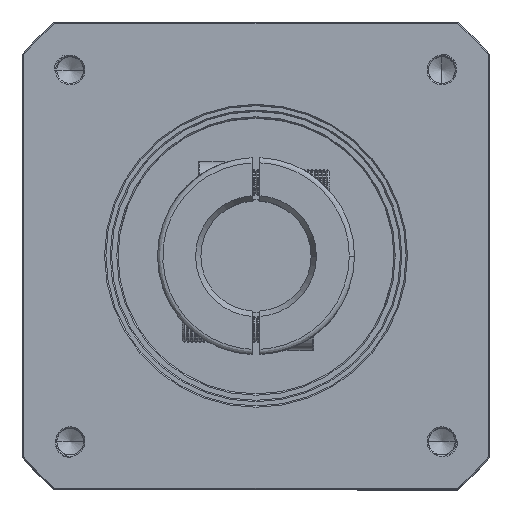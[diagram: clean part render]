
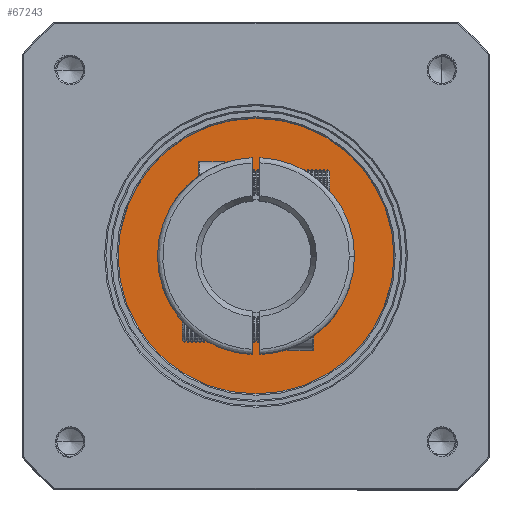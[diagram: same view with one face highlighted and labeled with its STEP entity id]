
A CAD part, top view. The second image highlights one B-rep face of the part: STEP entity #67243.
In plain terms, the highlighted planar face has unit normal (0, 0, 1).
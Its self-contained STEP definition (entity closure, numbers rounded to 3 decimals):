
#267 = DIRECTION ( 'NONE',  ( 1., 0., 0. ) ) ;
#506 = CIRCLE ( 'NONE', #37683, 30.5 ) ;
#580 = DIRECTION ( 'NONE',  ( 0., 0., -1. ) ) ;
#1935 = CARTESIAN_POINT ( 'NONE',  ( -84.778, 105.693, -34.089 ) ) ;
#3627 = EDGE_CURVE ( 'NONE', #6414, #99539, #506, .T. ) ;
#6414 = VERTEX_POINT ( 'NONE', #134251 ) ;
#6509 = ORIENTED_EDGE ( 'NONE', *, *, #62705, .T. ) ;
#7537 = CARTESIAN_POINT ( 'NONE',  ( -137.278, 105.693, -34.089 ) ) ;
#10547 = AXIS2_PLACEMENT_3D ( 'NONE', #108707, #130602, #129694 ) ;
#24724 = CARTESIAN_POINT ( 'NONE',  ( -32.278, 105.693, -34.089 ) ) ;
#26731 = CIRCLE ( 'NONE', #33134, 52.5 ) ;
#30965 = DIRECTION ( 'NONE',  ( 1., 0., 0. ) ) ;
#33134 = AXIS2_PLACEMENT_3D ( 'NONE', #43986, #73453, #73902 ) ;
#33776 = VERTEX_POINT ( 'NONE', #24724 ) ;
#35585 = AXIS2_PLACEMENT_3D ( 'NONE', #1935, #580, #54176 ) ;
#37683 = AXIS2_PLACEMENT_3D ( 'NONE', #41139, #84261, #267 ) ;
#41139 = CARTESIAN_POINT ( 'NONE',  ( -84.778, 105.693, -34.089 ) ) ;
#41492 = CARTESIAN_POINT ( 'NONE',  ( -54.278, 105.693, -34.089 ) ) ;
#43986 = CARTESIAN_POINT ( 'NONE',  ( -84.778, 105.693, -34.089 ) ) ;
#54176 = DIRECTION ( 'NONE',  ( -1., 0., 0. ) ) ;
#58191 = AXIS2_PLACEMENT_3D ( 'NONE', #72262, #62287, #30965 ) ;
#59067 = VERTEX_POINT ( 'NONE', #7537 ) ;
#62287 = DIRECTION ( 'NONE',  ( 0., 0., 1. ) ) ;
#62705 = EDGE_CURVE ( 'NONE', #33776, #59067, #26731, .T. ) ;
#63253 = PLANE ( 'NONE',  #35585 ) ;
#63491 = EDGE_CURVE ( 'NONE', #59067, #33776, #91269, .T. ) ;
#67243 = ADVANCED_FACE ( 'NONE', ( #93756, #126409 ), #63253, .F. ) ;
#69449 = ORIENTED_EDGE ( 'NONE', *, *, #3627, .F. ) ;
#72262 = CARTESIAN_POINT ( 'NONE',  ( -84.778, 105.693, -34.089 ) ) ;
#73453 = DIRECTION ( 'NONE',  ( 0., 0., 1. ) ) ;
#73902 = DIRECTION ( 'NONE',  ( -1., 0., 0. ) ) ;
#75818 = CIRCLE ( 'NONE', #58191, 30.5 ) ;
#84261 = DIRECTION ( 'NONE',  ( 0., 0., 1. ) ) ;
#84570 = ORIENTED_EDGE ( 'NONE', *, *, #63491, .T. ) ;
#87129 = EDGE_CURVE ( 'NONE', #99539, #6414, #75818, .T. ) ;
#91269 = CIRCLE ( 'NONE', #10547, 52.5 ) ;
#91982 = EDGE_LOOP ( 'NONE', ( #117316, #69449 ) ) ;
#93756 = FACE_BOUND ( 'NONE', #91982, .T. ) ;
#99539 = VERTEX_POINT ( 'NONE', #41492 ) ;
#104720 = EDGE_LOOP ( 'NONE', ( #84570, #6509 ) ) ;
#108707 = CARTESIAN_POINT ( 'NONE',  ( -84.778, 105.693, -34.089 ) ) ;
#117316 = ORIENTED_EDGE ( 'NONE', *, *, #87129, .F. ) ;
#126409 = FACE_OUTER_BOUND ( 'NONE', #104720, .T. ) ;
#129694 = DIRECTION ( 'NONE',  ( -1., 0., 0. ) ) ;
#130602 = DIRECTION ( 'NONE',  ( 0., 0., 1. ) ) ;
#134251 = CARTESIAN_POINT ( 'NONE',  ( -115.278, 105.693, -34.089 ) ) ;
